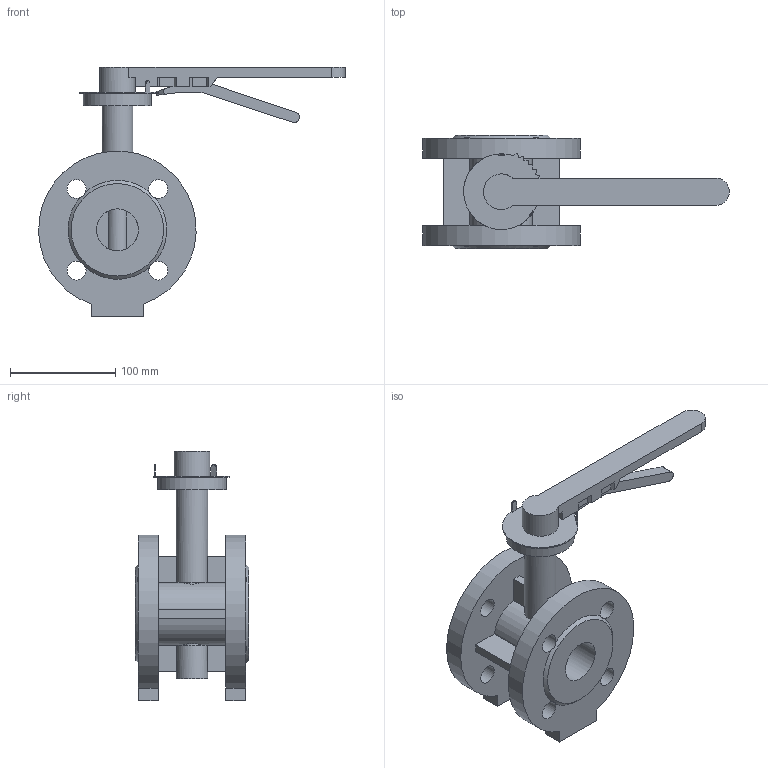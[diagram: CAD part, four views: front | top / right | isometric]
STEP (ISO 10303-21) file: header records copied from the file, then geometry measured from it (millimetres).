
FILE_DESCRIPTION(('STEP AP203'), '1');
FILE_NAME('Çàòâîð 021F.Y DN40 +ðóêîÿòêà', '', ('UNSPECIFIED'), ('UNSPECIFIED'), 'ASCON STEP Converter 1.6', 'ASCON Math Kernel', '');
FILE_SCHEMA(('CONFIG_CONTROL_DESIGN'));
Length unit declared in the file: millimetre
Bounding box: 291.93 x 108 x 238 mm (x, y, z)
Volume: 1020550.2 mm3; surface area: 173583.3 mm2
Topology: 1 solids, 1 shells, 169 faces, 494 edges, 323 vertices
Faces by surface type: plane 109, cylinder 58, cone 2
Full cylindrical faces by diameter (mm): 8 x4, 18 x8, 30 x2, 34 x1, 40 x2, 60 x1, 65 x1
Entity records: 8284 total; most frequent: CARTESIAN_POINT 2413, ORIENTED_EDGE 928, DIRECTION 915, EDGE_CURVE 464, VERTEX_POINT 319, AXIS2_PLACEMENT_3D 308, LINE 299, VECTOR 299
